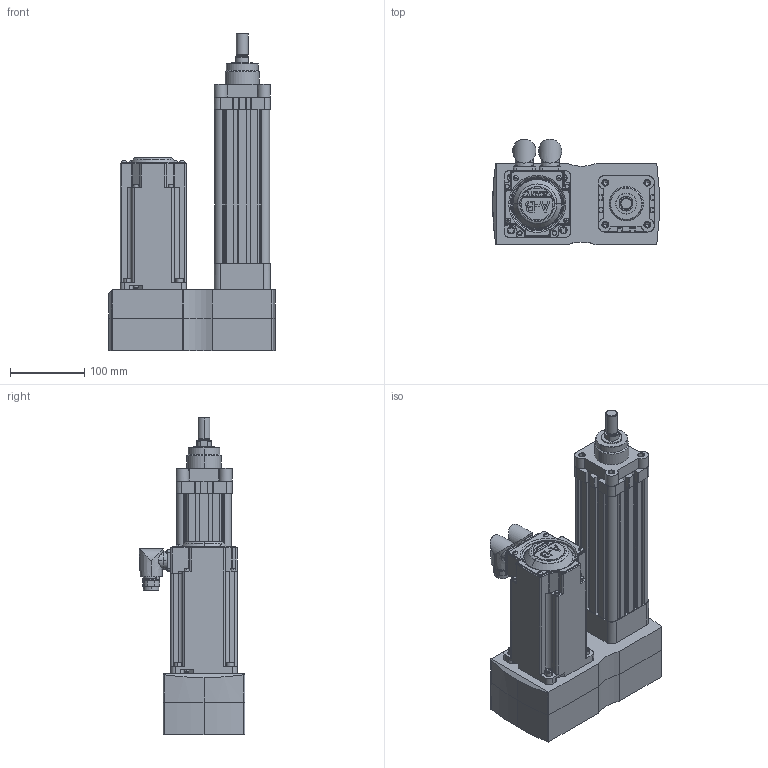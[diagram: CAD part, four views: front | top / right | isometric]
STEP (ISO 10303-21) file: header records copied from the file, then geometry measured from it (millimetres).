
FILE_DESCRIPTION (( 'STEP AP214' ), '1' );
FILE_NAME ('Rockwell Automation-$PARTNUMBER.STEP', '2015-07-10T14:02:57', ( 'Windows User' ), ( '' ), 'SwSTEP 2.0', 'SolidWorks 2015', '' );
FILE_SCHEMA (( 'AUTOMOTIVE_DESIGN' ));
Length unit declared in the file: millimetre
Products named in the file (16): Rockwell Automation-$PARTNUMBER_Rockwell Automation-MPAR-X3100E-M2D_627503_1202486; Rockwell Automation-$PARTNUMBER_Rockwell Automation-MPAR-X3100E-M2D_627503_200687_3; Rockwell Automation-$PARTNUMBER_Rockwell Automation-MPAR-X3100E-M2D_627503_215990; Rockwell Automation-$PARTNUMBER_Rockwell Automation-MPAR-X3100E-M2D_627503_354152_3; Rockwell Automation-$PARTNUMBER_Rockwell Automation-MPAR-X3100E-M2D_627503_1202519; Rockwell Automation-$PARTNUMBER_Rockwell Automation-MPAR-X3100E-M2D_MPAR-X3100X; Rockwell Automation-$PARTNUMBER_Rockwell Automation-MPAR-X3100E-M2D_PRT0016-555472; Rockwell Automation-$PARTNUMBER_Rockwell Automation-MPAR-X3100E-M2D_PRT0015-555472; Rockwell Automation-$PARTNUMBER; Rockwell Automation-$PARTNUMBER_Rockwell Automation-MPAR-X3100E-M2D_MPL-x330F-M-X211_MPL-x330x-xJ72AA; Rockwell Automation-$PARTNUMBER_Rockwell Automation-MPAR-X3100E-M2D_MPL-x330x-xJ72AA_MPL-3xx-Encoder Connector; Rockwell Automation-$PARTNUMBER_Rockwell Automation-MPAR-X3100E-M2D_MPL-x330x-xJ72AA_MPL-3xx-Power Connector; Rockwell Automation-$PARTNUMBER_Rockwell Automation-MPAR-X3100E-M2D_MPL-x330x-xJ72AA_MPL-3xx-Shaft_330-keyed; Rockwell Automation-$PARTNUMBER_Rockwell Automation-MPAR-X3100E-M2D_MPL-x330x-xJ72AA_MPL-3xx-Body_330; Rockwell Automation-$PARTNUMBER_Rockwell Automation-MPAR-X3100E-M2D_627503; Rockwell Automation-$PARTNUMBER_Rockwell Automation-MPAR-X3100E-M2D_627503_1202981__ASM
Assembly tree (25 placements, depth 4):
  Rockwell Automation-$PARTNUMBER
    Rockwell Automation-$PARTNUMBER_Rockwell Automation-MPAR-X3100E-M2D_MPAR-X3100X
      Rockwell Automation-$PARTNUMBER_Rockwell Automation-MPAR-X3100E-M2D_PRT0015-555472
      Rockwell Automation-$PARTNUMBER_Rockwell Automation-MPAR-X3100E-M2D_PRT0016-555472
    Rockwell Automation-$PARTNUMBER_Rockwell Automation-MPAR-X3100E-M2D_627503
      Rockwell Automation-$PARTNUMBER_Rockwell Automation-MPAR-X3100E-M2D_627503_1202981__ASM
        Rockwell Automation-$PARTNUMBER_Rockwell Automation-MPAR-X3100E-M2D_627503_1202519
        Rockwell Automation-$PARTNUMBER_Rockwell Automation-MPAR-X3100E-M2D_627503_354152_3  x4
        Rockwell Automation-$PARTNUMBER_Rockwell Automation-MPAR-X3100E-M2D_627503_215990  x5
        Rockwell Automation-$PARTNUMBER_Rockwell Automation-MPAR-X3100E-M2D_627503_200687_3  x4
        Rockwell Automation-$PARTNUMBER_Rockwell Automation-MPAR-X3100E-M2D_627503_1202486
    Rockwell Automation-$PARTNUMBER_Rockwell Automation-MPAR-X3100E-M2D_MPL-x330F-M-X211_MPL-x330x-xJ72AA
      Rockwell Automation-$PARTNUMBER_Rockwell Automation-MPAR-X3100E-M2D_MPL-x330x-xJ72AA_MPL-3xx-Body_330
      Rockwell Automation-$PARTNUMBER_Rockwell Automation-MPAR-X3100E-M2D_MPL-x330x-xJ72AA_MPL-3xx-Shaft_330-keyed
      Rockwell Automation-$PARTNUMBER_Rockwell Automation-MPAR-X3100E-M2D_MPL-x330x-xJ72AA_MPL-3xx-Power Connector
      Rockwell Automation-$PARTNUMBER_Rockwell Automation-MPAR-X3100E-M2D_MPL-x330x-xJ72AA_MPL-3xx-Encoder Connector
Bounding box: 224.58 x 142.38 x 428 mm (x, y, z)
Volume: 3605852.7 mm3; surface area: 541344.1 mm2
Topology: 22 solids, 22 shells, 1999 faces, 5102 edges, 3281 vertices
Faces by surface type: plane 789, cylinder 708, cone 302, bspline 112, torus 88
Entity records: 62392 total; most frequent: CARTESIAN_POINT 19788, ORIENTED_EDGE 8802, DIRECTION 8186, EDGE_CURVE 4401, AXIS2_PLACEMENT_3D 2976, VERTEX_POINT 2861, LINE 2234, VECTOR 2234
